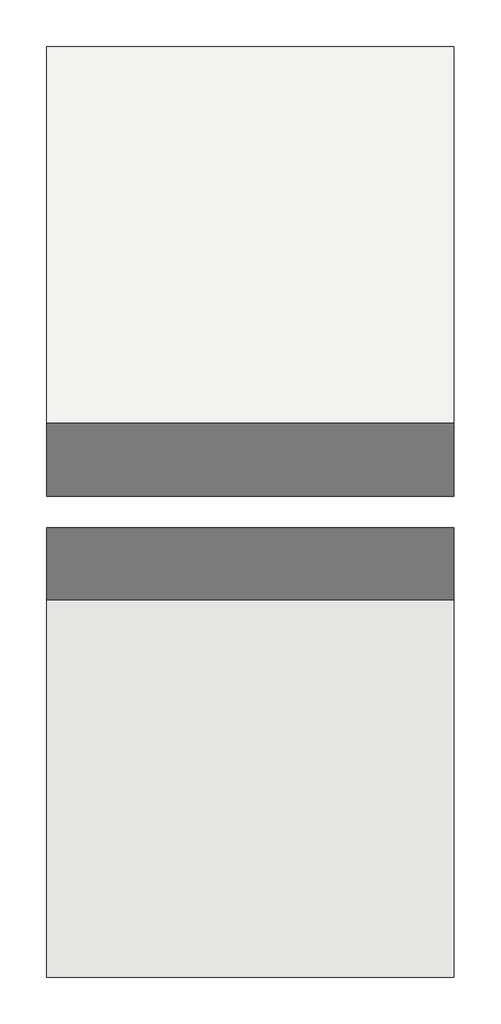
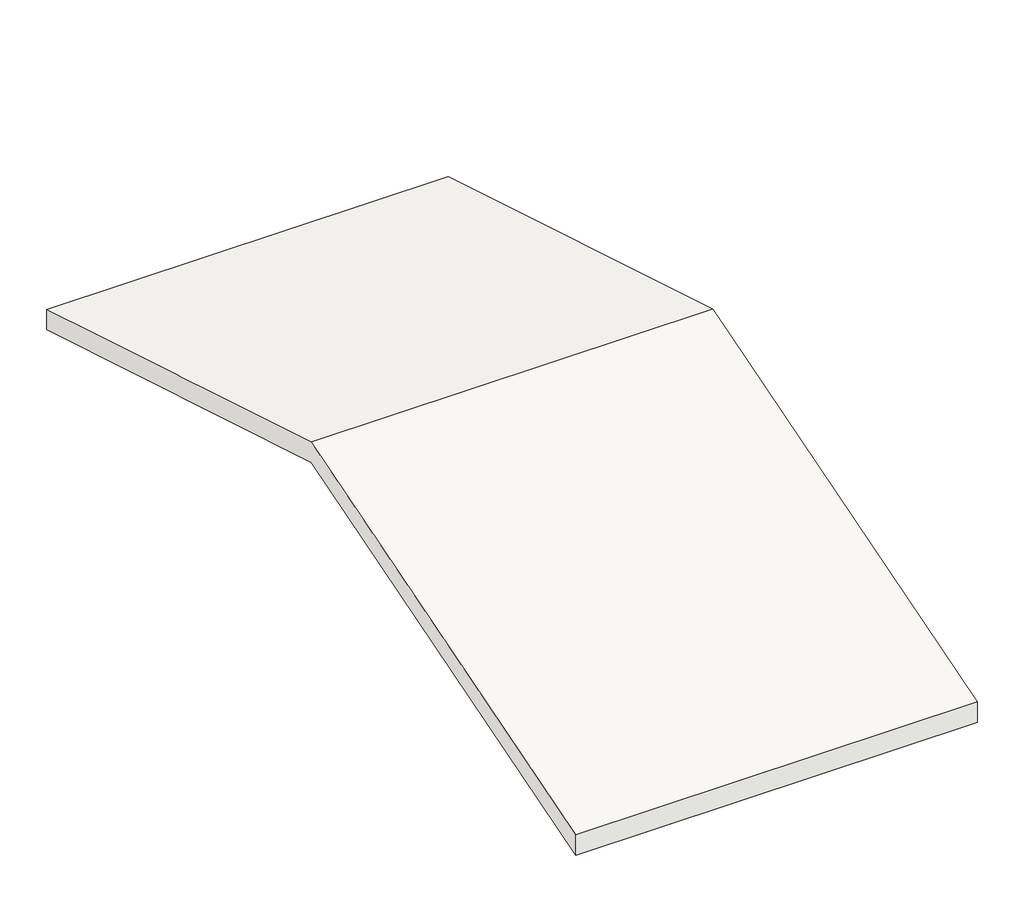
# One storey: 1 roof.
"""IFC4 building model written with IfcOpenShell, lengths in millimetres."""

from ifc_helpers import new_model, si_unit, frame, origin, place, context, project, spatial, polyline, outline, extrude, element, save

model = new_model("IFC4")

# Units and contexts
model_context = context("Model", 3, world=origin())
ifc_project = project(units=[si_unit("LENGTHUNIT", "METRE", prefix="MILLI")], contexts=[model_context])

# Site, building, storey
site = spatial("IfcSite", under=ifc_project)
building = spatial("IfcBuilding", under=site)
storey = spatial("IfcBuildingStorey", under=building, Name="ARARSE GARAGE", Elevation=1700.0)

# Roof
placement = place(None, origin())
element("IfcRoof", 1, ObjectType="Toit - 200 mm", at=placement, inside=storey, context=model_context, shape_type="SweptSolid", body=[
    extrude(outline(polyline([(2997.3797732, 1818.8061302), (7447.3797732, 3153.8061302), (11897.3797732, 1818.8061302), (11897.3797732, 1610.0), (7447.3797732, 2945.0), (2997.3797732, 1610.0), (2997.3797732, 1818.8061302)])), frame((-21948.2926959, 0.0, 0.0), z_axis=(1.0, 0.0, 0.0), x_axis=(0.0, 1.0, 0.0)), (0.0, 0.0, 1.0), 3900.0),
])

save(model, "model.ifc")
